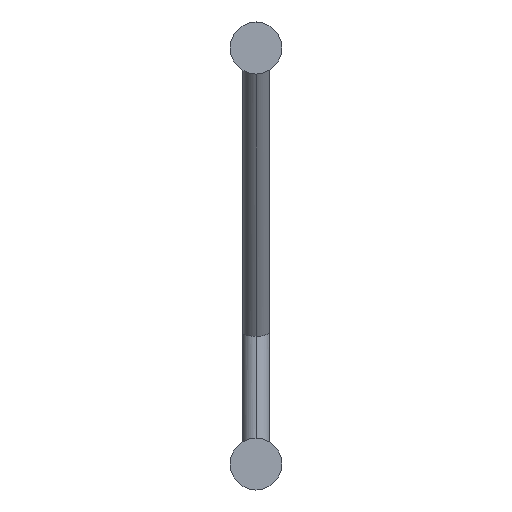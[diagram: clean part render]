
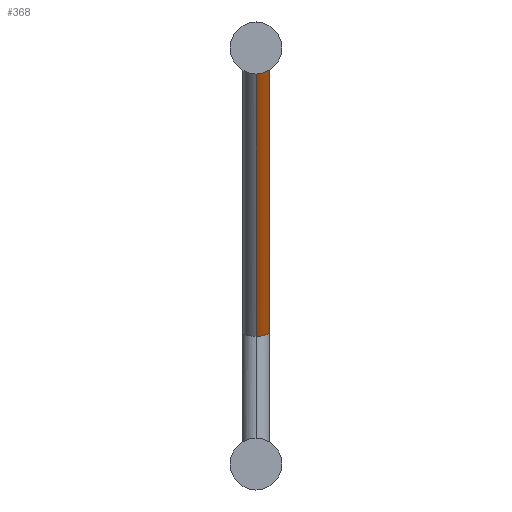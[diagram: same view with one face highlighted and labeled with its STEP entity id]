
A CAD part, front view. The second image highlights one B-rep face of the part: STEP entity #368.
In plain terms, the highlighted cylindrical face has radius 4 mm (diameter 8 mm), a partial arc.
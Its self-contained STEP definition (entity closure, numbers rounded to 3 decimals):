
#4 =( BOUNDED_CURVE ( )  B_SPLINE_CURVE ( 3, ( #88, #97, #98, #99 ),
 .UNSPECIFIED., .F., .T. ) 
 B_SPLINE_CURVE_WITH_KNOTS ( ( 4, 4 ),
 ( 0., 1.571 ),
 .UNSPECIFIED. ) 
 CURVE ( )  GEOMETRIC_REPRESENTATION_ITEM ( )  RATIONAL_B_SPLINE_CURVE ( ( 1., 0.805, 0.805, 1. ) ) 
 REPRESENTATION_ITEM ( '' )  );
#7 =( BOUNDED_CURVE ( )  B_SPLINE_CURVE ( 3, ( #1260, #1221, #1184, #1268 ),
 .UNSPECIFIED., .F., .T. ) 
 B_SPLINE_CURVE_WITH_KNOTS ( ( 4, 4 ),
 ( 0., 3.142 ),
 .UNSPECIFIED. ) 
 CURVE ( )  GEOMETRIC_REPRESENTATION_ITEM ( )  RATIONAL_B_SPLINE_CURVE ( ( 1., 0.333, 0.333, 1. ) ) 
 REPRESENTATION_ITEM ( '' )  );
#9 =( BOUNDED_CURVE ( )  B_SPLINE_CURVE ( 3, ( #239, #189, #178, #166 ),
 .UNSPECIFIED., .F., .F. ) 
 B_SPLINE_CURVE_WITH_KNOTS ( ( 4, 4 ),
 ( 1.571, 3.142 ),
 .UNSPECIFIED. ) 
 CURVE ( )  GEOMETRIC_REPRESENTATION_ITEM ( )  RATIONAL_B_SPLINE_CURVE ( ( 1., 0.805, 0.805, 1. ) ) 
 REPRESENTATION_ITEM ( '' )  );
#56 = CARTESIAN_POINT ( 'NONE',  ( 0., 128.473, 35.806 ) ) ;
#76 = DIRECTION ( 'NONE',  ( 0., -0.574, 0.819 ) ) ;
#81 = DIRECTION ( 'NONE',  ( 0., -0.574, 0.819 ) ) ;
#88 = CARTESIAN_POINT ( 'NONE',  ( 0., 76.485, 124. ) ) ;
#97 = CARTESIAN_POINT ( 'NONE',  ( 2.343, 76.485, 124. ) ) ;
#98 = CARTESIAN_POINT ( 'NONE',  ( 4., 75.623, 122.343 ) ) ;
#99 = CARTESIAN_POINT ( 'NONE',  ( 4., 74.403, 120. ) ) ;
#166 = CARTESIAN_POINT ( 'NONE',  ( 0., 72.321, 116. ) ) ;
#178 = CARTESIAN_POINT ( 'NONE',  ( 2.343, 72.321, 116. ) ) ;
#189 = CARTESIAN_POINT ( 'NONE',  ( 4., 73.183, 117.657 ) ) ;
#239 = CARTESIAN_POINT ( 'NONE',  ( 4., 74.403, 120. ) ) ;
#306 = CARTESIAN_POINT ( 'NONE',  ( 0., 135.027, 40.394 ) ) ;
#368 = ADVANCED_FACE ( 'NONE', ( #884 ), #895, .T. ) ;
#402 = AXIS2_PLACEMENT_3D ( 'NONE', #677, #676, #675 ) ;
#412 = EDGE_CURVE ( 'NONE', #528, #556, #853, .T. ) ;
#422 = EDGE_CURVE ( 'NONE', #531, #550, #9, .T. ) ;
#452 = EDGE_CURVE ( 'NONE', #525, #550, #819, .T. ) ;
#464 = EDGE_CURVE ( 'NONE', #556, #531, #4, .T. ) ;
#507 = EDGE_CURVE ( 'NONE', #525, #528, #7, .T. ) ;
#525 = VERTEX_POINT ( 'NONE', #1134 ) ;
#528 = VERTEX_POINT ( 'NONE', #1259 ) ;
#531 = VERTEX_POINT ( 'NONE', #1126 ) ;
#550 = VERTEX_POINT ( 'NONE', #1186 ) ;
#556 = VERTEX_POINT ( 'NONE', #1264 ) ;
#675 = DIRECTION ( 'NONE',  ( 0., -0.819, -0.574 ) ) ;
#676 = DIRECTION ( 'NONE',  ( 0., -0.574, 0.819 ) ) ;
#677 = CARTESIAN_POINT ( 'NONE',  ( 0., 131.75, 38.1 ) ) ;
#762 = ORIENTED_EDGE ( 'NONE', *, *, #507, .T. ) ;
#768 = ORIENTED_EDGE ( 'NONE', *, *, #412, .T. ) ;
#817 = VECTOR ( 'NONE', #76, 1000. ) ;
#819 = LINE ( 'NONE', #56, #817 ) ;
#851 = VECTOR ( 'NONE', #81, 1000. ) ;
#853 = LINE ( 'NONE', #306, #851 ) ;
#884 = FACE_OUTER_BOUND ( 'NONE', #971, .T. ) ;
#895 = CYLINDRICAL_SURFACE ( 'NONE', #402, 4. ) ;
#971 = EDGE_LOOP ( 'NONE', ( #762, #768, #1016, #1023, #1061 ) ) ;
#1016 = ORIENTED_EDGE ( 'NONE', *, *, #464, .T. ) ;
#1023 = ORIENTED_EDGE ( 'NONE', *, *, #422, .T. ) ;
#1061 = ORIENTED_EDGE ( 'NONE', *, *, #452, .F. ) ;
#1126 = CARTESIAN_POINT ( 'NONE',  ( 4., 74.403, 120. ) ) ;
#1134 = CARTESIAN_POINT ( 'NONE',  ( 0., 127.75, 36.839 ) ) ;
#1184 = CARTESIAN_POINT ( 'NONE',  ( 8., 135.75, 39.361 ) ) ;
#1186 = CARTESIAN_POINT ( 'NONE',  ( 0., 72.321, 116. ) ) ;
#1221 = CARTESIAN_POINT ( 'NONE',  ( 8., 127.75, 36.839 ) ) ;
#1259 = CARTESIAN_POINT ( 'NONE',  ( 0., 135.75, 39.361 ) ) ;
#1260 = CARTESIAN_POINT ( 'NONE',  ( 0., 127.75, 36.839 ) ) ;
#1264 = CARTESIAN_POINT ( 'NONE',  ( 0., 76.485, 124. ) ) ;
#1268 = CARTESIAN_POINT ( 'NONE',  ( 0., 135.75, 39.361 ) ) ;
